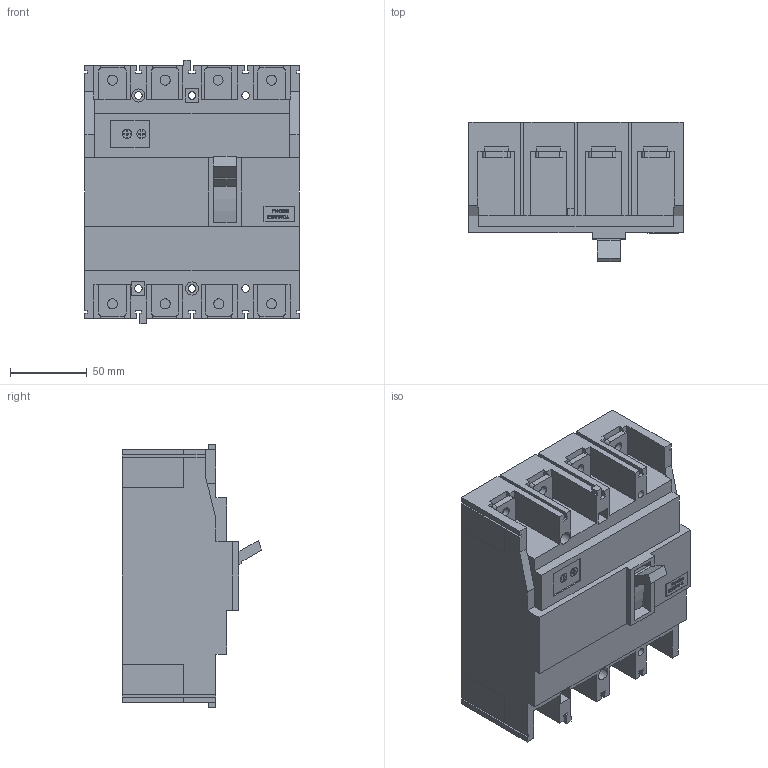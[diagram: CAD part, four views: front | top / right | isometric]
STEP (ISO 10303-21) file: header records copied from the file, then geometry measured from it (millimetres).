
FILE_DESCRIPTION((''),'2;1');
FILE_NAME('S250GJ4250','2012-09-20T',('cmahecha'),(''),'PRO/ENGINEER BY PARAMETRIC TECHNOLOGY CORPORATION, 2010280','PRO/ENGINEER BY PARAMETRIC TECHNOLOGY CORPORATION, 2010280','');
FILE_SCHEMA(('CONFIG_CONTROL_DESIGN'));
Length unit declared in the file: millimetre
Products named in the file (1): S250GJ4250
Bounding box: 140 x 90.8 x 172 mm (x, y, z)
Volume: 1340402 mm3; surface area: 124428.3 mm2
Topology: 1 solids, 1 shells, 709 faces, 1993 edges, 1321 vertices
Faces by surface type: plane 651, cylinder 58
Entity records: 22567 total; most frequent: CARTESIAN_POINT 4023, ORIENTED_EDGE 3986, DIRECTION 3541, EDGE_CURVE 1993, VECTOR 1863, LINE 1863, VERTEX_POINT 1321, AXIS2_PLACEMENT_3D 839
